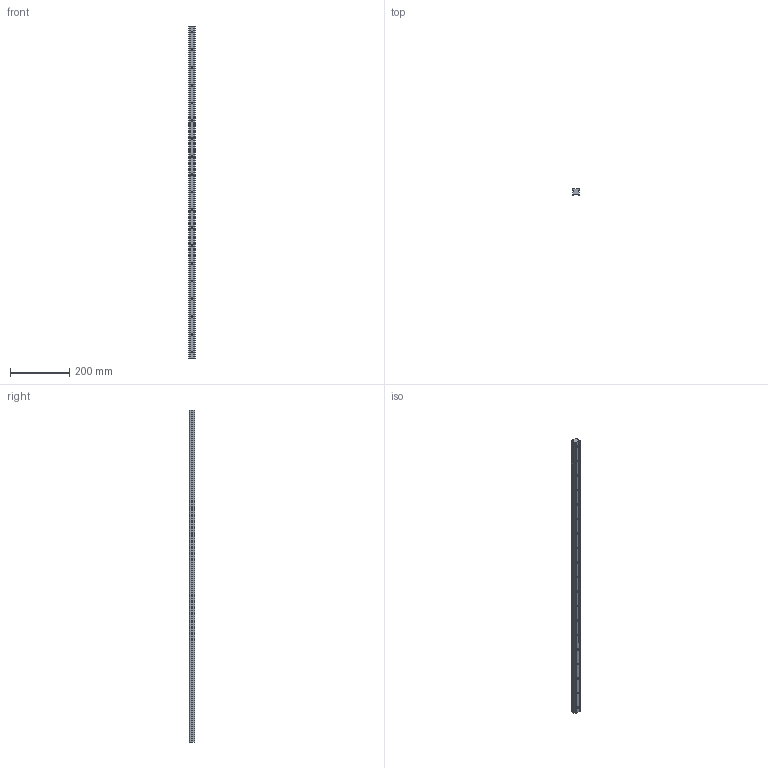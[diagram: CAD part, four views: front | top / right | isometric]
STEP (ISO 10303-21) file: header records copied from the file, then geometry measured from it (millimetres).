
FILE_DESCRIPTION (( 'STEP AP203' ), '1' );
FILE_NAME ('L1016.BRF25-1120.step', '2019-06-13T08:37:06', ( '' ), ( '' ), 'SwSTEP 2.0', 'SolidWorks 2017', '' );
FILE_SCHEMA (( 'CONFIG_CONTROL_DESIGN' ));
Length unit declared in the file: millimetre
Products named in the file (1): L1016.BRF25-1120
Bounding box: 23 x 19.2 x 1120 mm (x, y, z)
Volume: 427536.3 mm3; surface area: 103606.9 mm2
Topology: 1 solids, 1 shells, 159 faces, 376 edges, 219 vertices
Faces by surface type: cylinder 80, plane 41, cone 38
Entity records: 4397 total; most frequent: DIRECTION 818, CARTESIAN_POINT 717, ORIENTED_EDGE 676, EDGE_CURVE 338, AXIS2_PLACEMENT_3D 320, VERTEX_POINT 219, EDGE_LOOP 197, VECTOR 178
